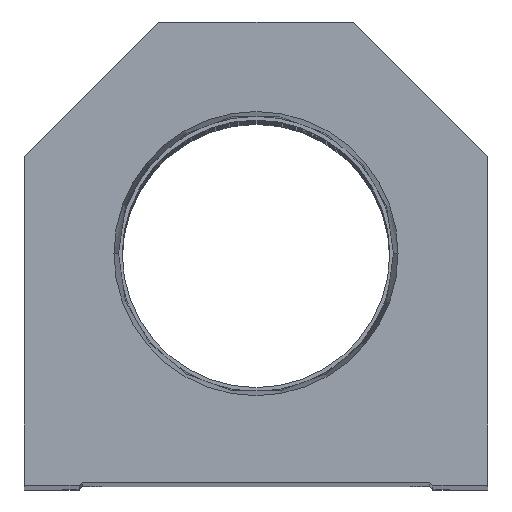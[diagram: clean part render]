
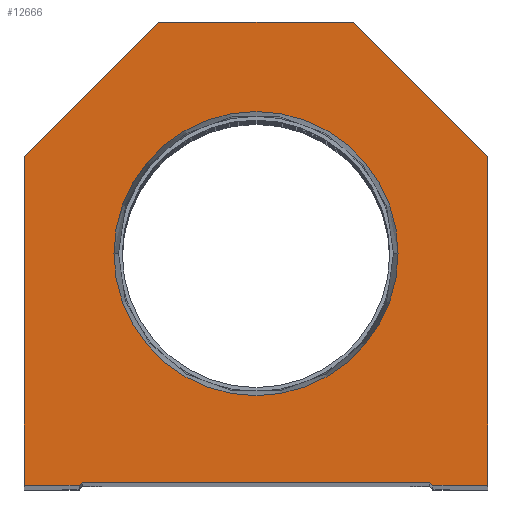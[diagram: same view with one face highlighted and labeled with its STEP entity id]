
A CAD part, top view. The second image highlights one B-rep face of the part: STEP entity #12666.
In plain terms, the highlighted planar face has unit normal (0, 0, 1).
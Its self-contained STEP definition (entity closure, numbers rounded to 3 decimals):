
#16 = EDGE_CURVE ( 'NONE', #12383, #3935, #11431, .T. ) ;
#179 = DIRECTION ( 'NONE',  ( 1., 0., 0. ) ) ;
#276 = DIRECTION ( 'NONE',  ( -0.707, -0.707, 0. ) ) ;
#449 = VECTOR ( 'NONE', #4914, 1000. ) ;
#1108 = DIRECTION ( 'NONE',  ( 1., 0., 0. ) ) ;
#1163 = VERTEX_POINT ( 'NONE', #19473 ) ;
#1293 = LINE ( 'NONE', #16640, #4218 ) ;
#1650 = ORIENTED_EDGE ( 'NONE', *, *, #26365, .T. ) ;
#2450 = EDGE_CURVE ( 'NONE', #20869, #23830, #19374, .T. ) ;
#2615 = EDGE_CURVE ( 'NONE', #1163, #14691, #20568, .T. ) ;
#2618 = VECTOR ( 'NONE', #13947, 1000. ) ;
#2646 = EDGE_CURVE ( 'NONE', #22918, #14913, #20984, .T. ) ;
#2868 = CARTESIAN_POINT ( 'NONE',  ( 29.1, 0., 0. ) ) ;
#3017 = DIRECTION ( 'NONE',  ( 1., 0., 0. ) ) ;
#3146 = DIRECTION ( 'NONE',  ( 1., 0., 0. ) ) ;
#3673 = CARTESIAN_POINT ( 'NONE',  ( -38.1, 0., 0. ) ) ;
#3935 = VERTEX_POINT ( 'NONE', #8347 ) ;
#4218 = VECTOR ( 'NONE', #27491, 1000. ) ;
#4391 = AXIS2_PLACEMENT_3D ( 'NONE', #18755, #11683, #3146 ) ;
#4399 = CARTESIAN_POINT ( 'NONE',  ( 28.6, 0., 0. ) ) ;
#4914 = DIRECTION ( 'NONE',  ( -1., 0., 0. ) ) ;
#5063 = EDGE_CURVE ( 'NONE', #3935, #8774, #24292, .T. ) ;
#5097 = EDGE_CURVE ( 'NONE', #13910, #22918, #13994, .T. ) ;
#5193 = ORIENTED_EDGE ( 'NONE', *, *, #2450, .F. ) ;
#5390 = VECTOR ( 'NONE', #276, 1000. ) ;
#6633 = ORIENTED_EDGE ( 'NONE', *, *, #16, .T. ) ;
#7064 = CARTESIAN_POINT ( 'NONE',  ( 16., 76.2, 0. ) ) ;
#7138 = CARTESIAN_POINT ( 'NONE',  ( 14.55, 14.55, 0. ) ) ;
#7167 = EDGE_LOOP ( 'NONE', ( #21532, #5193 ) ) ;
#7624 = DIRECTION ( 'NONE',  ( 0., 0., 1. ) ) ;
#7828 = CARTESIAN_POINT ( 'NONE',  ( -14.55, 14.55, 0. ) ) ;
#8017 = EDGE_CURVE ( 'NONE', #13581, #25211, #16559, .T. ) ;
#8347 = CARTESIAN_POINT ( 'NONE',  ( -16., 76.2, 0. ) ) ;
#8694 = CARTESIAN_POINT ( 'NONE',  ( -29.1, 0., 0. ) ) ;
#8774 = VERTEX_POINT ( 'NONE', #17058 ) ;
#9322 = EDGE_CURVE ( 'NONE', #8774, #13910, #21428, .T. ) ;
#9792 = FACE_BOUND ( 'NONE', #7167, .T. ) ;
#9863 = CARTESIAN_POINT ( 'NONE',  ( 38.1, 0., 0. ) ) ;
#10037 = ORIENTED_EDGE ( 'NONE', *, *, #2646, .T. ) ;
#10124 = CARTESIAN_POINT ( 'NONE',  ( 16., 76.2, 0. ) ) ;
#10311 = CARTESIAN_POINT ( 'NONE',  ( 38.1, 54.1, 0. ) ) ;
#10752 = LINE ( 'NONE', #21863, #23225 ) ;
#10870 = VECTOR ( 'NONE', #12465, 1000. ) ;
#11431 = LINE ( 'NONE', #7064, #449 ) ;
#11683 = DIRECTION ( 'NONE',  ( 0., 0., 1. ) ) ;
#12095 = ORIENTED_EDGE ( 'NONE', *, *, #5063, .T. ) ;
#12383 = VERTEX_POINT ( 'NONE', #10124 ) ;
#12445 = CARTESIAN_POINT ( 'NONE',  ( -28.6, 0.5, 0. ) ) ;
#12465 = DIRECTION ( 'NONE',  ( 0.707, 0.707, 0. ) ) ;
#12666 = ADVANCED_FACE ( 'NONE', ( #9792, #13974 ), #22953, .T. ) ;
#13076 = EDGE_CURVE ( 'NONE', #25211, #1163, #15796, .T. ) ;
#13220 = DIRECTION ( 'NONE',  ( 1., 0., 0. ) ) ;
#13581 = VERTEX_POINT ( 'NONE', #15557 ) ;
#13768 = VECTOR ( 'NONE', #21287, 1000. ) ;
#13910 = VERTEX_POINT ( 'NONE', #25636 ) ;
#13947 = DIRECTION ( 'NONE',  ( 0.707, -0.707, 0. ) ) ;
#13974 = FACE_OUTER_BOUND ( 'NONE', #16249, .T. ) ;
#13994 = LINE ( 'NONE', #14129, #27595 ) ;
#14129 = CARTESIAN_POINT ( 'NONE',  ( -28.6, 0., 0. ) ) ;
#14691 = VERTEX_POINT ( 'NONE', #10311 ) ;
#14913 = VERTEX_POINT ( 'NONE', #12445 ) ;
#15557 = CARTESIAN_POINT ( 'NONE',  ( 28.6, 0.5, 0. ) ) ;
#15796 = LINE ( 'NONE', #4399, #26063 ) ;
#16249 = EDGE_LOOP ( 'NONE', ( #27485, #10037, #24026, #28354, #22137, #20399, #1650, #6633, #12095, #26634 ) ) ;
#16559 = LINE ( 'NONE', #7138, #2618 ) ;
#16640 = CARTESIAN_POINT ( 'NONE',  ( 38.1, 54.1, 0. ) ) ;
#17058 = CARTESIAN_POINT ( 'NONE',  ( -38.1, 54.1, 0. ) ) ;
#18385 = DIRECTION ( 'NONE',  ( 0., 1., 0. ) ) ;
#18755 = CARTESIAN_POINT ( 'NONE',  ( 0., 0., 0. ) ) ;
#19374 = CIRCLE ( 'NONE', #25873, 23.374 ) ;
#19473 = CARTESIAN_POINT ( 'NONE',  ( 38.1, 0., 0. ) ) ;
#20399 = ORIENTED_EDGE ( 'NONE', *, *, #2615, .T. ) ;
#20568 = LINE ( 'NONE', #9863, #23317 ) ;
#20869 = VERTEX_POINT ( 'NONE', #26387 ) ;
#20984 = LINE ( 'NONE', #7828, #10870 ) ;
#21287 = DIRECTION ( 'NONE',  ( 0., -1., 0. ) ) ;
#21322 = AXIS2_PLACEMENT_3D ( 'NONE', #27458, #7624, #1108 ) ;
#21428 = LINE ( 'NONE', #3673, #13768 ) ;
#21532 = ORIENTED_EDGE ( 'NONE', *, *, #27327, .F. ) ;
#21863 = CARTESIAN_POINT ( 'NONE',  ( -28.6, 0.5, 0. ) ) ;
#22137 = ORIENTED_EDGE ( 'NONE', *, *, #13076, .T. ) ;
#22165 = CARTESIAN_POINT ( 'NONE',  ( 0., 38.1, 0. ) ) ;
#22918 = VERTEX_POINT ( 'NONE', #8694 ) ;
#22953 = PLANE ( 'NONE',  #4391 ) ;
#23179 = CARTESIAN_POINT ( 'NONE',  ( 23.374, 38.1, 0. ) ) ;
#23225 = VECTOR ( 'NONE', #25699, 1000. ) ;
#23317 = VECTOR ( 'NONE', #18385, 1000. ) ;
#23830 = VERTEX_POINT ( 'NONE', #23179 ) ;
#24026 = ORIENTED_EDGE ( 'NONE', *, *, #28606, .T. ) ;
#24292 = LINE ( 'NONE', #26897, #5390 ) ;
#24550 = CIRCLE ( 'NONE', #21322, 23.374 ) ;
#25211 = VERTEX_POINT ( 'NONE', #2868 ) ;
#25636 = CARTESIAN_POINT ( 'NONE',  ( -38.1, 0., 0. ) ) ;
#25699 = DIRECTION ( 'NONE',  ( 1., 0., 0. ) ) ;
#25873 = AXIS2_PLACEMENT_3D ( 'NONE', #22165, #26254, #179 ) ;
#26063 = VECTOR ( 'NONE', #13220, 1000. ) ;
#26254 = DIRECTION ( 'NONE',  ( 0., 0., 1. ) ) ;
#26365 = EDGE_CURVE ( 'NONE', #14691, #12383, #1293, .T. ) ;
#26387 = CARTESIAN_POINT ( 'NONE',  ( -23.374, 38.1, 0. ) ) ;
#26634 = ORIENTED_EDGE ( 'NONE', *, *, #9322, .T. ) ;
#26897 = CARTESIAN_POINT ( 'NONE',  ( -38.1, 54.1, 0. ) ) ;
#27327 = EDGE_CURVE ( 'NONE', #23830, #20869, #24550, .T. ) ;
#27458 = CARTESIAN_POINT ( 'NONE',  ( 0., 38.1, 0. ) ) ;
#27485 = ORIENTED_EDGE ( 'NONE', *, *, #5097, .T. ) ;
#27491 = DIRECTION ( 'NONE',  ( -0.707, 0.707, 0. ) ) ;
#27595 = VECTOR ( 'NONE', #3017, 1000. ) ;
#28354 = ORIENTED_EDGE ( 'NONE', *, *, #8017, .T. ) ;
#28606 = EDGE_CURVE ( 'NONE', #14913, #13581, #10752, .T. ) ;
